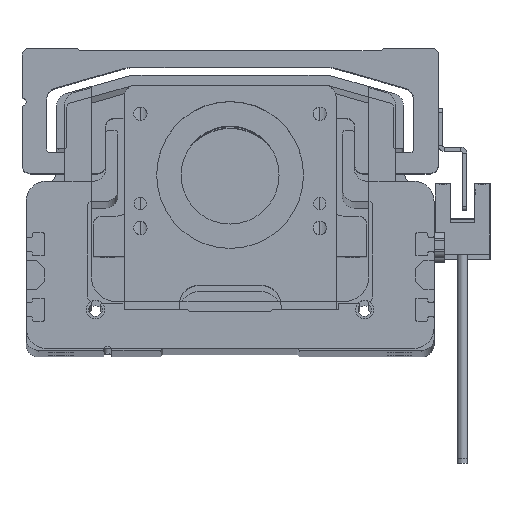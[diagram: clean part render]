
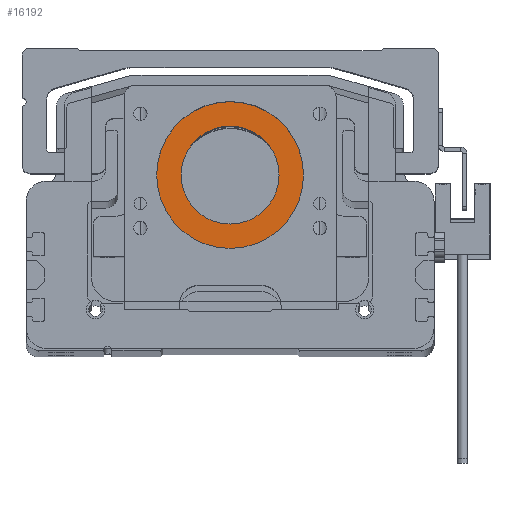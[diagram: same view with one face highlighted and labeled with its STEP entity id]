
A CAD part, top view. The second image highlights one B-rep face of the part: STEP entity #16192.
In plain terms, the highlighted planar face has unit normal (0, 0, 1).
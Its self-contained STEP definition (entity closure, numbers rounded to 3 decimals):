
#499 = CARTESIAN_POINT ( 'NONE',  ( -12., 33., 2.5 ) ) ;
#3432 = VERTEX_POINT ( 'NONE', #6080 ) ;
#3720 = EDGE_CURVE ( 'NONE', #3432, #9336, #23106, .T. ) ;
#4812 = ORIENTED_EDGE ( 'NONE', *, *, #24065, .F. ) ;
#5229 = ORIENTED_EDGE ( 'NONE', *, *, #26896, .T. ) ;
#6080 = CARTESIAN_POINT ( 'NONE',  ( 18., 33., 2.5 ) ) ;
#6436 = CARTESIAN_POINT ( 'NONE',  ( 0., 33., 2.5 ) ) ;
#6722 = DIRECTION ( 'NONE',  ( 0., 0., 1. ) ) ;
#7252 = CIRCLE ( 'NONE', #8384, 18. ) ;
#8384 = AXIS2_PLACEMENT_3D ( 'NONE', #6436, #23929, #8957 ) ;
#8957 = DIRECTION ( 'NONE',  ( 1., 0., 0. ) ) ;
#9192 = CARTESIAN_POINT ( 'NONE',  ( -18., 33., 2.5 ) ) ;
#9336 = VERTEX_POINT ( 'NONE', #9192 ) ;
#9768 = DIRECTION ( 'NONE',  ( 1., 0., 0. ) ) ;
#9811 = CARTESIAN_POINT ( 'NONE',  ( 0., 33., 2.5 ) ) ;
#10305 = DIRECTION ( 'NONE',  ( 0., 0., 1. ) ) ;
#10980 = DIRECTION ( 'NONE',  ( 1., 0., 0. ) ) ;
#10984 = DIRECTION ( 'NONE',  ( 0., 0., 1. ) ) ;
#11167 = CARTESIAN_POINT ( 'NONE',  ( 0., 33., 2.5 ) ) ;
#11279 = PLANE ( 'NONE',  #24012 ) ;
#12816 = EDGE_CURVE ( 'NONE', #14462, #23132, #28859, .T. ) ;
#14462 = VERTEX_POINT ( 'NONE', #26233 ) ;
#16192 = ADVANCED_FACE ( 'NONE', ( #20254, #26750 ), #11279, .T. ) ;
#16490 = AXIS2_PLACEMENT_3D ( 'NONE', #9811, #10305, #9768 ) ;
#17107 = AXIS2_PLACEMENT_3D ( 'NONE', #32006, #31672, #19552 ) ;
#18219 = AXIS2_PLACEMENT_3D ( 'NONE', #21756, #6722, #24212 ) ;
#19552 = DIRECTION ( 'NONE',  ( 1., 0., 0. ) ) ;
#19979 = CIRCLE ( 'NONE', #18219, 12. ) ;
#20254 = FACE_OUTER_BOUND ( 'NONE', #30655, .T. ) ;
#21128 = ORIENTED_EDGE ( 'NONE', *, *, #3720, .T. ) ;
#21133 = EDGE_LOOP ( 'NONE', ( #24717, #4812 ) ) ;
#21756 = CARTESIAN_POINT ( 'NONE',  ( 0., 33., 2.5 ) ) ;
#23106 = CIRCLE ( 'NONE', #17107, 18. ) ;
#23132 = VERTEX_POINT ( 'NONE', #499 ) ;
#23929 = DIRECTION ( 'NONE',  ( 0., 0., 1. ) ) ;
#24012 = AXIS2_PLACEMENT_3D ( 'NONE', #11167, #10984, #10980 ) ;
#24065 = EDGE_CURVE ( 'NONE', #23132, #14462, #19979, .T. ) ;
#24212 = DIRECTION ( 'NONE',  ( 1., 0., 0. ) ) ;
#24717 = ORIENTED_EDGE ( 'NONE', *, *, #12816, .F. ) ;
#26233 = CARTESIAN_POINT ( 'NONE',  ( 12., 33., 2.5 ) ) ;
#26750 = FACE_BOUND ( 'NONE', #21133, .T. ) ;
#26896 = EDGE_CURVE ( 'NONE', #9336, #3432, #7252, .T. ) ;
#28859 = CIRCLE ( 'NONE', #16490, 12. ) ;
#30655 = EDGE_LOOP ( 'NONE', ( #21128, #5229 ) ) ;
#31672 = DIRECTION ( 'NONE',  ( 0., 0., 1. ) ) ;
#32006 = CARTESIAN_POINT ( 'NONE',  ( 0., 33., 2.5 ) ) ;
